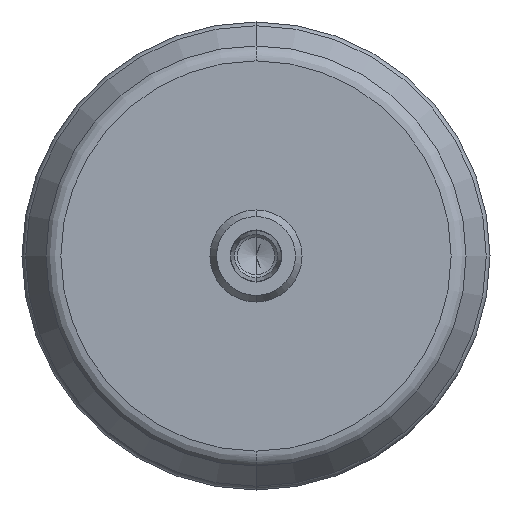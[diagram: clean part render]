
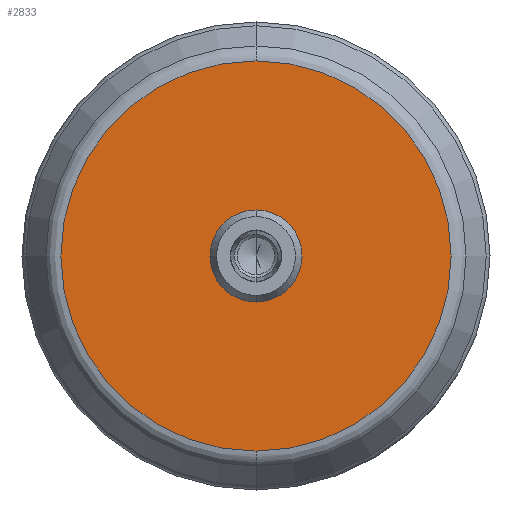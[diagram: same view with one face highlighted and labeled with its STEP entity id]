
A CAD part, front view. The second image highlights one B-rep face of the part: STEP entity #2833.
In plain terms, the highlighted planar face has unit normal (0, -1, 0).
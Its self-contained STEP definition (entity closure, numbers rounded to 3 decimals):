
#8 = CARTESIAN_POINT ( 'NONE',  ( 0., 0., -33.892 ) ) ;
#182 = DIRECTION ( 'NONE',  ( 0., 1., 0. ) ) ;
#204 = CARTESIAN_POINT ( 'NONE',  ( 0., 0., 0. ) ) ;
#554 = AXIS2_PLACEMENT_3D ( 'NONE', #2361, #1025, #4538 ) ;
#575 = DIRECTION ( 'NONE',  ( 0., 0., 1. ) ) ;
#589 = VERTEX_POINT ( 'NONE', #8 ) ;
#1025 = DIRECTION ( 'NONE',  ( 0., -1., 0. ) ) ;
#1055 = ORIENTED_EDGE ( 'NONE', *, *, #2328, .F. ) ;
#1116 = CARTESIAN_POINT ( 'NONE',  ( 0., 0., -7.75 ) ) ;
#1331 = CARTESIAN_POINT ( 'NONE',  ( 0., 0., 0. ) ) ;
#1369 = DIRECTION ( 'NONE',  ( 0., 0., 1. ) ) ;
#1704 = DIRECTION ( 'NONE',  ( 0., 1., 0. ) ) ;
#1708 = DIRECTION ( 'NONE',  ( 0., 1., 0. ) ) ;
#1710 = ORIENTED_EDGE ( 'NONE', *, *, #3224, .T. ) ;
#1722 = EDGE_CURVE ( 'NONE', #3953, #589, #2921, .T. ) ;
#2030 = ORIENTED_EDGE ( 'NONE', *, *, #2320, .T. ) ;
#2320 = EDGE_CURVE ( 'NONE', #4798, #4916, #4579, .T. ) ;
#2328 = EDGE_CURVE ( 'NONE', #589, #3953, #3958, .T. ) ;
#2361 = CARTESIAN_POINT ( 'NONE',  ( 0., 0., 0. ) ) ;
#2616 = AXIS2_PLACEMENT_3D ( 'NONE', #204, #1708, #575 ) ;
#2833 = ADVANCED_FACE ( 'NONE', ( #3304, #4773 ), #3955, .T. ) ;
#2919 = CARTESIAN_POINT ( 'NONE',  ( 0., 0., 0. ) ) ;
#2921 = CIRCLE ( 'NONE', #2616, 33.892 ) ;
#2940 = AXIS2_PLACEMENT_3D ( 'NONE', #2919, #182, #1369 ) ;
#3039 = AXIS2_PLACEMENT_3D ( 'NONE', #1331, #4123, #4506 ) ;
#3177 = EDGE_LOOP ( 'NONE', ( #3653, #1055 ) ) ;
#3224 = EDGE_CURVE ( 'NONE', #4916, #4798, #3363, .T. ) ;
#3304 = FACE_BOUND ( 'NONE', #4259, .T. ) ;
#3363 = CIRCLE ( 'NONE', #3039, 7.75 ) ;
#3653 = ORIENTED_EDGE ( 'NONE', *, *, #1722, .F. ) ;
#3684 = CARTESIAN_POINT ( 'NONE',  ( 0., 0., 0. ) ) ;
#3734 = CARTESIAN_POINT ( 'NONE',  ( 0., 0., 33.892 ) ) ;
#3953 = VERTEX_POINT ( 'NONE', #3734 ) ;
#3955 = PLANE ( 'NONE',  #554 ) ;
#3958 = CIRCLE ( 'NONE', #2940, 33.892 ) ;
#4123 = DIRECTION ( 'NONE',  ( 0., 1., 0. ) ) ;
#4259 = EDGE_LOOP ( 'NONE', ( #2030, #1710 ) ) ;
#4472 = DIRECTION ( 'NONE',  ( 0., 0., 1. ) ) ;
#4506 = DIRECTION ( 'NONE',  ( 0., 0., 1. ) ) ;
#4538 = DIRECTION ( 'NONE',  ( 0., 0., -1. ) ) ;
#4579 = CIRCLE ( 'NONE', #4611, 7.75 ) ;
#4611 = AXIS2_PLACEMENT_3D ( 'NONE', #3684, #1704, #4472 ) ;
#4773 = FACE_OUTER_BOUND ( 'NONE', #3177, .T. ) ;
#4798 = VERTEX_POINT ( 'NONE', #5052 ) ;
#4916 = VERTEX_POINT ( 'NONE', #1116 ) ;
#5052 = CARTESIAN_POINT ( 'NONE',  ( 0., 0., 7.75 ) ) ;
